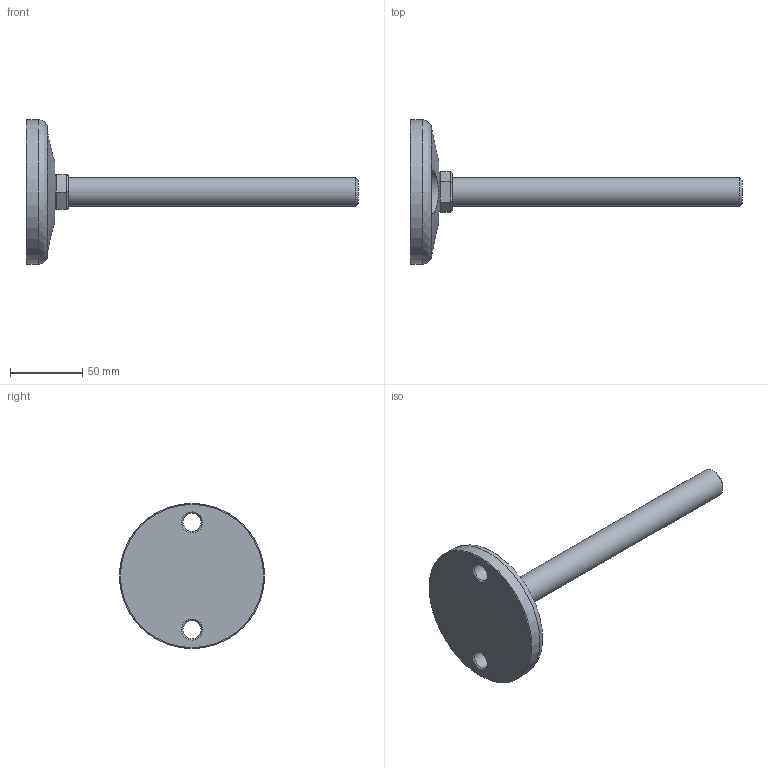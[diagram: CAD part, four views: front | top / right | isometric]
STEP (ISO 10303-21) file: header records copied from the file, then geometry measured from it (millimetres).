
FILE_DESCRIPTION(('STEP AP203'),'2;1');
FILE_NAME('12182.stp','2016-02-10T08:23:19',(''),(''),'2008.1.107','THINKDESIGN','');
FILE_SCHEMA(('CONFIG_CONTROL_DESIGN'));
Length unit declared in the file: millimetre
Bounding box: 229 x 100 x 100 mm (x, y, z)
Volume: 192359.5 mm3; surface area: 35196.7 mm2
Topology: 3 solids, 3 shells, 40 faces, 94 edges, 60 vertices
Faces by surface type: cylinder 18, plane 14, bspline 8
Full cylindrical faces by diameter (mm): 12.5 x2, 20 x1, 100 x1
Entity records: 2061 total; most frequent: CARTESIAN_POINT 1062, ORIENTED_EDGE 188, DIRECTION 182, EDGE_CURVE 94, AXIS2_PLACEMENT_3D 71, VERTEX_POINT 60, EDGE_LOOP 44, FACE_OUTER_BOUND 40
